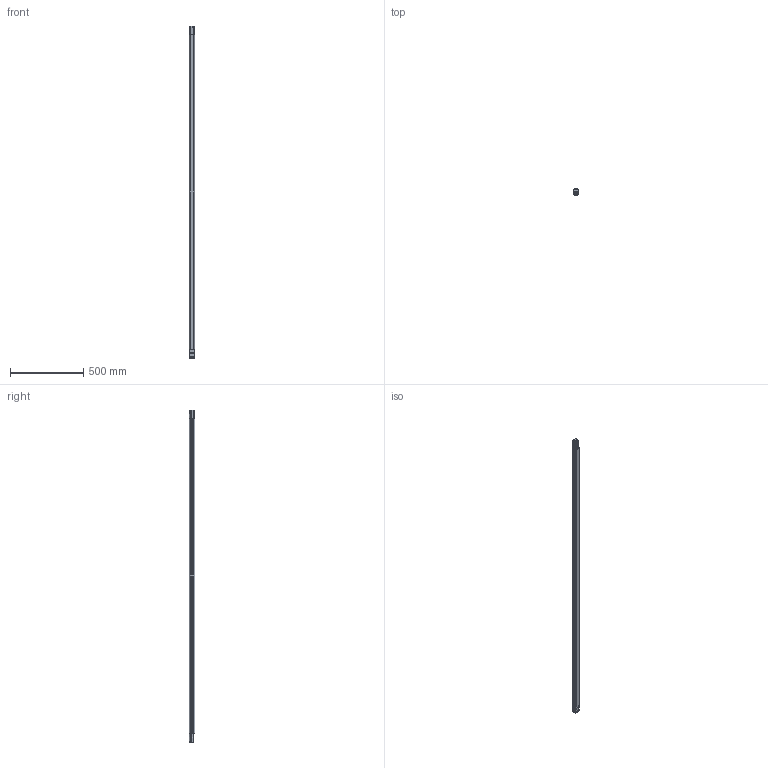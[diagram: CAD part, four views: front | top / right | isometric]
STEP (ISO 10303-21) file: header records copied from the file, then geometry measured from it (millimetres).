
FILE_DESCRIPTION(/* description */ (''),/* implementation_level */ '2;1');
FILE_NAME(/* name */ 'SH4 - 2250 mm DSD Barriera senza Smart Plug.stp',/* time_stamp */ '2022-12-02T18:40:09+01:00',/* author */ (''),/* organization */ (''),/* preprocessor_version */ 'ST-DEVELOPER v16.701',/* originating_system */ 'SIEMENS PLM Software NX 1946',/* authorisation */ '');
FILE_SCHEMA (('AP203_CONFIGURATION_CONTROLLED_3D_DESIGN_OF_MECHANICAL_PARTS_AND_ASSEMBLIES_MIM_LF { 1 0 10303 403 2 1 2}'));
Length unit declared in the file: millimetre
Products named in the file (1): MRos63D4F2E59x64
Bounding box: 35.08 x 40 x 2259 mm (x, y, z)
Volume: 2670289.8 mm3; surface area: 510746.1 mm2
Topology: 6 solids, 11 shells, 891 faces, 2428 edges, 1549 vertices
Faces by surface type: plane 363, cylinder 315, bspline 92, cone 55, extrusion 24, sphere 22, torus 20
Full cylindrical faces by diameter (mm): 2.013 x4, 2.2 x4, 3 x4, 4.37 x4, 5 x8
Entity records: 34734 total; most frequent: CARTESIAN_POINT 13104, ORIENTED_EDGE 4576, DIRECTION 3865, EDGE_CURVE 2288, VERTEX_POINT 1515, AXIS2_PLACEMENT_3D 1345, VECTOR 1175, LINE 1151
